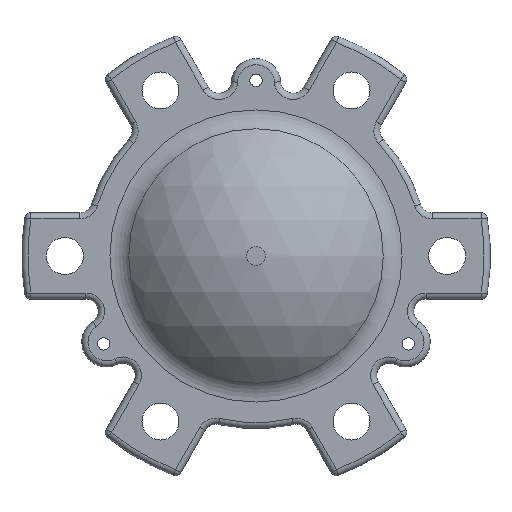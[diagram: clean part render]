
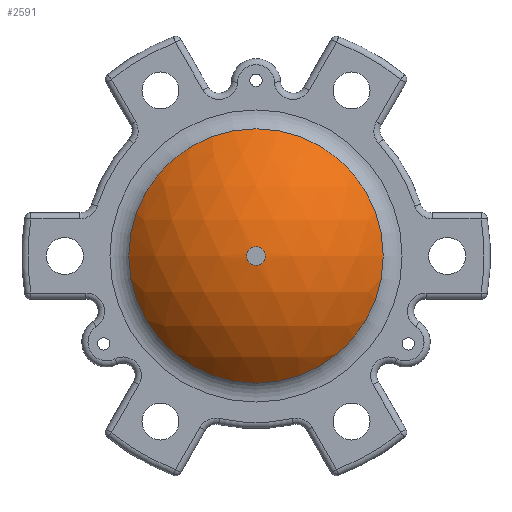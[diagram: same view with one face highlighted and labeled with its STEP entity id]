
A CAD part, left-side view. The second image highlights one B-rep face of the part: STEP entity #2591.
In plain terms, the highlighted spherical face has radius 42.862 mm.
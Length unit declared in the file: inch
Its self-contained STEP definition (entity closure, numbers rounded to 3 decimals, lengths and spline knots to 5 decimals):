
#90=SPHERICAL_SURFACE('',#2962,1.6875);
#109=FACE_BOUND('',#439,.T.);
#264=FACE_OUTER_BOUND('',#438,.T.);
#438=EDGE_LOOP('',(#2138));
#439=EDGE_LOOP('',(#2139));
#692=CIRCLE('',#2961,1.28933);
#693=CIRCLE('',#2963,0.09375);
#1183=VERTEX_POINT('',#4585);
#1184=VERTEX_POINT('',#4589);
#1532=EDGE_CURVE('',#1183,#1183,#692,.T.);
#1533=EDGE_CURVE('',#1184,#1184,#693,.T.);
#2138=ORIENTED_EDGE('',*,*,#1532,.F.);
#2139=ORIENTED_EDGE('',*,*,#1533,.F.);
#2591=ADVANCED_FACE('',(#264,#109),#90,.T.);
#2961=AXIS2_PLACEMENT_3D('',#4587,#3761,#3762);
#2962=AXIS2_PLACEMENT_3D('',#4588,#3763,#3764);
#2963=AXIS2_PLACEMENT_3D('',#4590,#3765,#3766);
#3761=DIRECTION('center_axis',(1.,0.,0.));
#3762=DIRECTION('ref_axis',(0.,0.,-1.));
#3763=DIRECTION('center_axis',(0.,0.,
1.));
#3764=DIRECTION('ref_axis',(-1.,0.,0.));
#3765=DIRECTION('center_axis',(-1.,0.,0.));
#3766=DIRECTION('ref_axis',(0.,0.,1.));
#4585=CARTESIAN_POINT('',(-0.40121,0.,-1.28933));
#4587=CARTESIAN_POINT('Origin',(-0.40121,0.,0.));
#4588=CARTESIAN_POINT('Origin',(0.6875,0.,0.));
#4589=CARTESIAN_POINT('',(-0.99739,0.,-0.09375));
#4590=CARTESIAN_POINT('Origin',(-0.99739,0.,0.));
